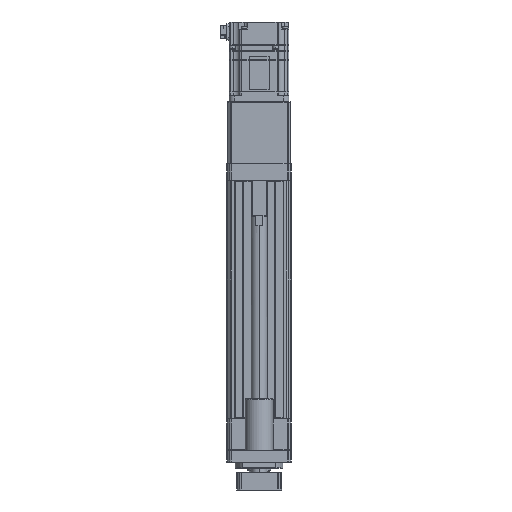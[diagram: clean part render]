
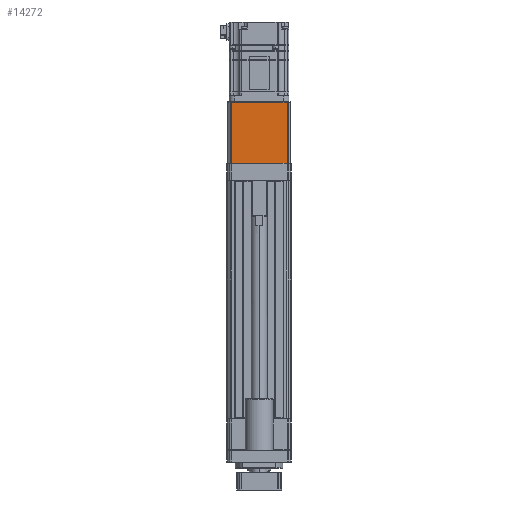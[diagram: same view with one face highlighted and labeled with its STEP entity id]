
A CAD part, front view. The second image highlights one B-rep face of the part: STEP entity #14272.
In plain terms, the highlighted planar face has unit normal (0, -1, 0).
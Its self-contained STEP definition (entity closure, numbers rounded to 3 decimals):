
#1110 = VECTOR ( 'NONE', #33909, 1000. ) ;
#1257 = DIRECTION ( 'NONE',  ( 0., 0., 1. ) ) ;
#2164 = ORIENTED_EDGE ( 'NONE', *, *, #23371, .T. ) ;
#3516 = EDGE_CURVE ( 'NONE', #7899, #29445, #27995, .T. ) ;
#4071 = VERTEX_POINT ( 'NONE', #23324 ) ;
#5213 = VECTOR ( 'NONE', #15555, 1000. ) ;
#5530 = CARTESIAN_POINT ( 'NONE',  ( -28.072, -32., 256.5 ) ) ;
#5934 = CARTESIAN_POINT ( 'NONE',  ( 28.072, -32., 256.5 ) ) ;
#7473 = VECTOR ( 'NONE', #44057, 1000. ) ;
#7899 = VERTEX_POINT ( 'NONE', #5934 ) ;
#8347 = CARTESIAN_POINT ( 'NONE',  ( 28.079, -32., 256.5 ) ) ;
#11368 = AXIS2_PLACEMENT_3D ( 'NONE', #43138, #22234, #1257 ) ;
#12351 = CARTESIAN_POINT ( 'NONE',  ( -28.079, -32., 256.5 ) ) ;
#12928 = CARTESIAN_POINT ( 'NONE',  ( -28.079, -32., 256.5 ) ) ;
#14272 = ADVANCED_FACE ( 'NONE', ( #39077 ), #39621, .F. ) ;
#15477 = ORIENTED_EDGE ( 'NONE', *, *, #33854, .T. ) ;
#15555 = DIRECTION ( 'NONE',  ( -1., 0., 0. ) ) ;
#15746 = DIRECTION ( 'NONE',  ( 1., 0., 0. ) ) ;
#18624 = CARTESIAN_POINT ( 'NONE',  ( -28.072, -32., 256.5 ) ) ;
#19302 = VECTOR ( 'NONE', #15746, 1000. ) ;
#19452 = EDGE_CURVE ( 'NONE', #24306, #7899, #36463, .T. ) ;
#21760 = EDGE_CURVE ( 'NONE', #34481, #4071, #35816, .T. ) ;
#22234 = DIRECTION ( 'NONE',  ( 0., 1., 0. ) ) ;
#23324 = CARTESIAN_POINT ( 'NONE',  ( -28.079, -32., 256.5 ) ) ;
#23371 = EDGE_CURVE ( 'NONE', #4071, #24306, #36724, .T. ) ;
#23452 = DIRECTION ( 'NONE',  ( 0., 0., -1. ) ) ;
#24306 = VERTEX_POINT ( 'NONE', #18624 ) ;
#26448 = ORIENTED_EDGE ( 'NONE', *, *, #28542, .F. ) ;
#27995 = LINE ( 'NONE', #12928, #1110 ) ;
#28542 = EDGE_CURVE ( 'NONE', #35899, #29445, #45280, .T. ) ;
#29445 = VERTEX_POINT ( 'NONE', #8347 ) ;
#29680 = DIRECTION ( 'NONE',  ( 0., 0., -1. ) ) ;
#32521 = ORIENTED_EDGE ( 'NONE', *, *, #21760, .T. ) ;
#32991 = CARTESIAN_POINT ( 'NONE',  ( -28.079, -32., 318. ) ) ;
#33153 = CARTESIAN_POINT ( 'NONE',  ( -28.079, -32., 318.5 ) ) ;
#33643 = VECTOR ( 'NONE', #29680, 1000. ) ;
#33822 = CARTESIAN_POINT ( 'NONE',  ( 28.079, -32., 318.5 ) ) ;
#33854 = EDGE_CURVE ( 'NONE', #35899, #34481, #42432, .T. ) ;
#33909 = DIRECTION ( 'NONE',  ( 1., 0., 0. ) ) ;
#34334 = ORIENTED_EDGE ( 'NONE', *, *, #3516, .T. ) ;
#34481 = VERTEX_POINT ( 'NONE', #43611 ) ;
#35816 = LINE ( 'NONE', #33153, #33643 ) ;
#35899 = VERTEX_POINT ( 'NONE', #38774 ) ;
#35953 = VECTOR ( 'NONE', #23452, 1000. ) ;
#36463 = LINE ( 'NONE', #5530, #7473 ) ;
#36724 = LINE ( 'NONE', #12351, #19302 ) ;
#36835 = ORIENTED_EDGE ( 'NONE', *, *, #19452, .T. ) ;
#38398 = EDGE_LOOP ( 'NONE', ( #26448, #15477, #32521, #2164, #36835, #34334 ) ) ;
#38774 = CARTESIAN_POINT ( 'NONE',  ( 28.079, -32., 318. ) ) ;
#39077 = FACE_OUTER_BOUND ( 'NONE', #38398, .T. ) ;
#39621 = PLANE ( 'NONE',  #11368 ) ;
#42432 = LINE ( 'NONE', #32991, #5213 ) ;
#43138 = CARTESIAN_POINT ( 'NONE',  ( -28.079, -32., 318.5 ) ) ;
#43611 = CARTESIAN_POINT ( 'NONE',  ( -28.079, -32., 318. ) ) ;
#44057 = DIRECTION ( 'NONE',  ( 1., 0., 0. ) ) ;
#45280 = LINE ( 'NONE', #33822, #35953 ) ;
